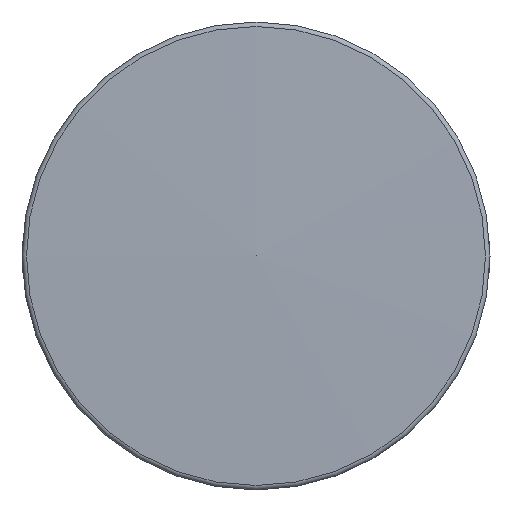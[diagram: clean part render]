
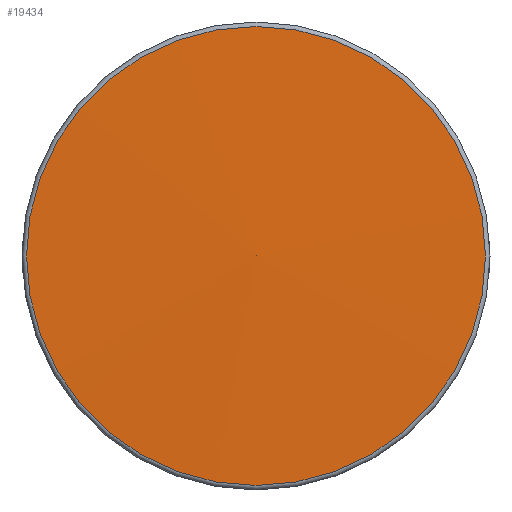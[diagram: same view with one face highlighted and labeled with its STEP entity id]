
A CAD part, top view. The second image highlights one B-rep face of the part: STEP entity #19434.
In plain terms, the highlighted spherical face has radius 1888.43 mm.
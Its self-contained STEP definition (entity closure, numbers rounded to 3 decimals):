
#359=SPHERICAL_SURFACE('',#20912,1888.426);
#4280=ORIENTED_EDGE('',*,*,#7276,.T.);
#7276=EDGE_CURVE('',#8874,#8874,#9943,.F.);
#8874=VERTEX_POINT('',#28639);
#9943=CIRCLE('',#20913,73.786);
#11048=EDGE_LOOP('',(#4280));
#12123=FACE_BOUND('',#11048,.T.);
#19434=ADVANCED_FACE('',(#12123),#359,.T.);
#20912=AXIS2_PLACEMENT_3D('',#28637,#24333,#24334);
#20913=AXIS2_PLACEMENT_3D('',#28638,#24335,#24336);
#24333=DIRECTION('',(0.,0.,1.));
#24334=DIRECTION('',(0.,1.,0.));
#24335=DIRECTION('',(0.,0.,-1.));
#24336=DIRECTION('',(1.,0.,0.));
#28637=CARTESIAN_POINT('',(0.,0.,
-1871.926));
#28638=CARTESIAN_POINT('',(0.,0.,15.058));
#28639=CARTESIAN_POINT('',(73.786,0.,15.058));
